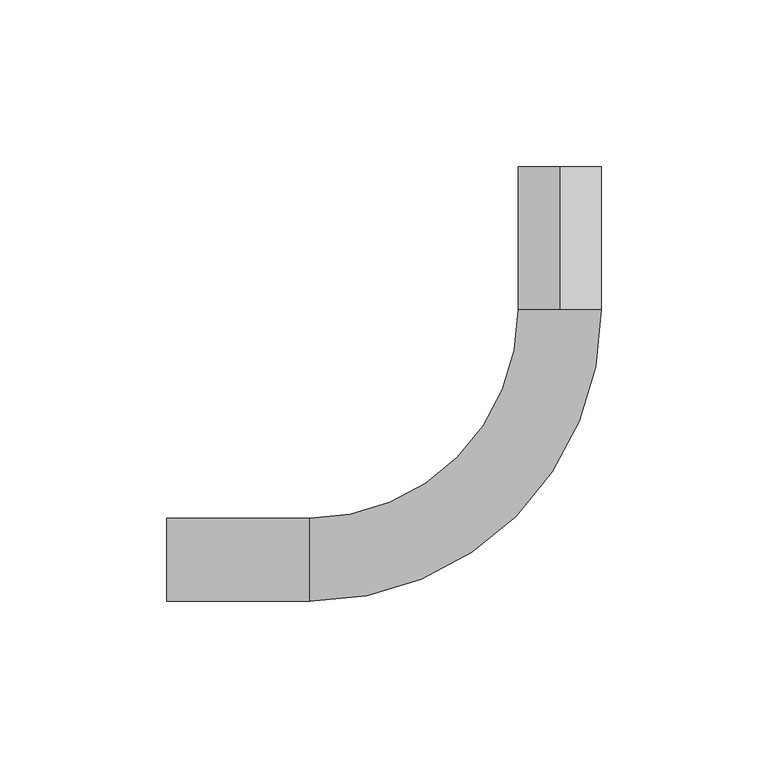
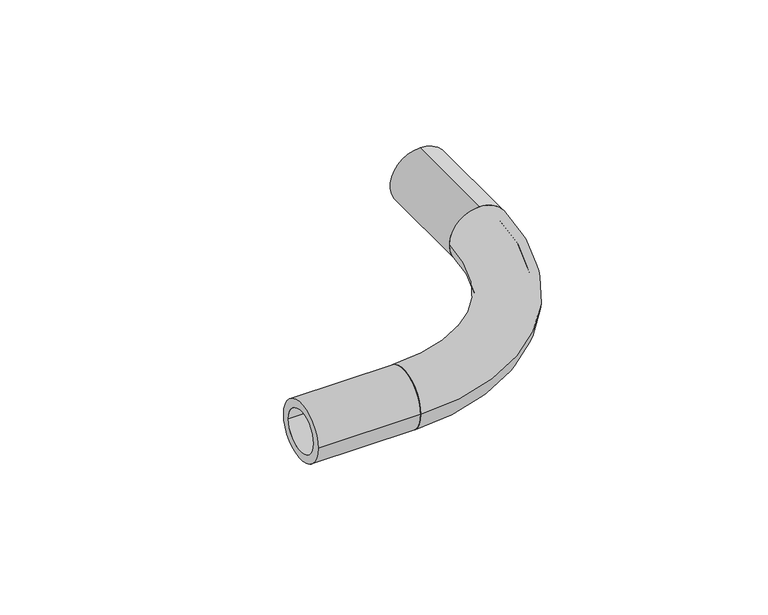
"""IFC4 building model written with IfcOpenShell, lengths in millimetres: pipe fitting geometry, REHAU_RAUTITAN_Pipe bend with former : REHAU_RAUTITAN_Pipe bend with former."""

import ifcopenshell
import ifcopenshell.guid

model = None  # the IFC model being written
_history = None  # IfcOwnerHistory: only IFC2X3 demands one
_inside = {}  # id of a spatial element -> (the spatial element, [elements in it])
_under = {}  # id of a project, library or spatial element -> (it, [spatial elements below it])
_declared = {}  # id of a project -> (the project, [libraries it declares])
_typed = {}  # id of a type object -> (the type object, [elements of that type])
_made_of = {}  # id of a material, layer set ... -> (it, [elements and type objects made of it])


def new_model(schema):
    """Start an empty IFC model of exactly this schema.

    Asked for "IFC4X3", IfcOpenShell would pick the latest addendum, in which some entities
    have other attributes; the version numbers below select the first issue.
    IFC2X3 requires an IfcOwnerHistory on every rooted entity: one is made here for all.
    """
    global model, _history
    if schema == "IFC4X3":
        model = ifcopenshell.file(schema_version=(4, 3, 0, 0))
    else:
        model = ifcopenshell.file(schema=schema)
    _inside.clear()
    _under.clear()
    _declared.clear()
    _typed.clear()
    _made_of.clear()
    _history = None
    if model.schema == "IFC2X3":
        org = make("IfcOrganization", Name="unknown")
        user = make(
            "IfcPersonAndOrganization",
            ThePerson=make("IfcPerson", FamilyName="unknown"),
            TheOrganization=org,
        )
        app = make(
            "IfcApplication",
            ApplicationDeveloper=org,
            Version="unknown",
            ApplicationFullName="unknown",
            ApplicationIdentifier="unknown",
        )
        _history = make(
            "IfcOwnerHistory",
            OwningUser=user,
            OwningApplication=app,
            ChangeAction="ADDED",
            CreationDate=0,
        )
    return model


def make(cls, **values):
    """One entity of the class cls with the attributes given. An attribute that is None is left unset."""
    return model.create_entity(
        cls, **{name: value for name, value in values.items() if value is not None}
    )


def rooted(cls, **values):
    """An entity with a GlobalId (a new one), such as an element, a storey or a relation."""
    return make(cls, GlobalId=ifcopenshell.guid.new(), OwnerHistory=_history, **values)


def si_unit(unit_type, name, prefix=None):
    """IfcSIUnit, for example si_unit("LENGTHUNIT", "METRE", prefix="MILLI")."""
    return make("IfcSIUnit", UnitType=unit_type, Prefix=prefix, Name=name)


def assignment(units):
    """IfcUnitAssignment: the units of a project."""
    return None if units is None else make("IfcUnitAssignment", Units=units)


def point(xyz):
    """IfcCartesianPoint."""
    return None if xyz is None else make("IfcCartesianPoint", Coordinates=xyz)


def direction(xyz):
    """IfcDirection."""
    return None if xyz is None else make("IfcDirection", DirectionRatios=xyz)


def frame(location, z_axis=None, x_axis=None):
    """IfcAxis2Placement3D, a coordinate frame: its origin and axes. An axis left out is left unset."""
    return make(
        "IfcAxis2Placement3D",
        Location=point(location),
        Axis=direction(z_axis),
        RefDirection=direction(x_axis),
    )


def frame_2d(location, x_axis=None):
    """IfcAxis2Placement2D, a coordinate frame in the plane: its origin and x axis."""
    return make(
        "IfcAxis2Placement2D", Location=point(location), RefDirection=direction(x_axis)
    )


def origin():
    """The frame at (0, 0, 0) with its axes left unset."""
    return frame((0.0, 0.0, 0.0))


def origin_2d():
    """The frame at (0, 0) in the plane with its x axis left unset."""
    return frame_2d((0.0, 0.0))


def place(relative_to, where):
    """IfcLocalPlacement: puts the frame where relative to a parent placement (None: the world)."""
    return make(
        "IfcLocalPlacement", PlacementRelTo=relative_to, RelativePlacement=where
    )


def context(
    kind, dimensions, precision=None, world=None, true_north=None, identifier=None
):
    """IfcGeometricRepresentationContext, for example the 3D "Model" context."""
    return make(
        "IfcGeometricRepresentationContext",
        ContextIdentifier=identifier,
        ContextType=kind,
        CoordinateSpaceDimension=dimensions,
        Precision=precision,
        WorldCoordinateSystem=world,
        TrueNorth=true_north,
    )


def project(units=None, contexts=None):
    """IfcProject with its units and contexts."""
    return rooted(
        "IfcProject",
        Name="project",
        RepresentationContexts=contexts,
        UnitsInContext=assignment(units),
    )


def spatial(cls, under=None, at=None, **own):
    """A site, building, storey or space (cls), placed at a placement, below another one or the project."""
    s = rooted(cls, ObjectPlacement=at, **own)
    if under is not None:
        _under.setdefault(under.id(), (under, []))[1].append(s)
    return s


def circle_curve(where, radius):
    """IfcCircle in the frame where."""
    return make("IfcCircle", Position=where, Radius=radius)


def ellipse_curve(where, semi_axis1, semi_axis2):
    """IfcEllipse in the frame where."""
    return make(
        "IfcEllipse", Position=where, SemiAxis1=semi_axis1, SemiAxis2=semi_axis2
    )


def trimmed(basis, trim1, trim2, sense, master):
    """IfcTrimmedCurve: the piece of a basis curve between two trims."""
    return make(
        "IfcTrimmedCurve",
        BasisCurve=basis,
        Trim1=trim1,
        Trim2=trim2,
        SenseAgreement=sense,
        MasterRepresentation=master,
    )


def segment(curve, same_sense, transition):
    """IfcCompositeCurveSegment."""
    return make(
        "IfcCompositeCurveSegment",
        Transition=transition,
        SameSense=same_sense,
        ParentCurve=curve,
    )


def composite_curve(segments, self_intersect=None):
    """IfcCompositeCurve: segments joined end to end."""
    return make("IfcCompositeCurve", Segments=segments, SelfIntersect=self_intersect)


def outline(outer, holes=None, kind="AREA"):
    """IfcArbitraryClosedProfileDef: a profile drawn as a closed curve; with holes, ...WithVoids."""
    if holes is None:
        return make("IfcArbitraryClosedProfileDef", ProfileType=kind, OuterCurve=outer)
    return make(
        "IfcArbitraryProfileDefWithVoids",
        ProfileType=kind,
        OuterCurve=outer,
        InnerCurves=holes,
    )


def extrude(swept, where, along, depth):
    """IfcExtrudedAreaSolid: the profile swept, set in the frame where, extruded along a direction by depth."""
    return make(
        "IfcExtrudedAreaSolid",
        SweptArea=swept,
        Position=where,
        ExtrudedDirection=direction(along),
        Depth=depth,
    )


def shape(context_of_items, identifier, shape_type, items):
    """IfcShapeRepresentation: the items that make up one representation, for example the "Body"."""
    return make(
        "IfcShapeRepresentation",
        ContextOfItems=context_of_items,
        RepresentationIdentifier=identifier,
        RepresentationType=shape_type,
        Items=items,
    )


def source(mapping_origin, context_of_items, identifier, shape_type, items):
    """IfcRepresentationMap: a shape defined once, which mapped items show again and again."""
    return make(
        "IfcRepresentationMap",
        MappingOrigin=mapping_origin,
        MappedRepresentation=shape(context_of_items, identifier, shape_type, items),
    )


def transform(
    local_origin,
    x_axis=None,
    y_axis=None,
    z_axis=None,
    scale=None,
    scale2=None,
    scale3=None,
    uniform=True,
):
    """IfcCartesianTransformationOperator3D, or its non-uniform kind. x_axis, y_axis, z_axis: its Axis1, 2, 3."""
    if uniform:
        return make(
            "IfcCartesianTransformationOperator3D",
            Axis1=direction(x_axis),
            Axis2=direction(y_axis),
            LocalOrigin=point(local_origin),
            Scale=scale,
            Axis3=direction(z_axis),
        )
    return make(
        "IfcCartesianTransformationOperator3DnonUniform",
        Axis1=direction(x_axis),
        Axis2=direction(y_axis),
        LocalOrigin=point(local_origin),
        Scale=scale,
        Axis3=direction(z_axis),
        Scale2=scale2,
        Scale3=scale3,
    )


def mapped(mapping_source, mapping_target):
    """IfcMappedItem: shows the shape of a source again, moved by a transform."""
    return make(
        "IfcMappedItem", MappingSource=mapping_source, MappingTarget=mapping_target
    )


def made_of(thing, what):
    """Note that an element or type object is made of a material, layer set ...; save() writes the relation."""
    if what is not None:
        _made_of.setdefault(what.id(), (what, []))[1].append(thing)
    return thing


def element(
    cls,
    number,
    at=None,
    inside=None,
    cuts=None,
    type_object=None,
    material=None,
    context=None,
    identifier="Body",
    shape_type=None,
    held_by="IfcProductDefinitionShape",
    body=None,
    shapes=None,
    **own,
):
    """One element of the class cls, such as IfcWall. Its Tag is "e" and its number.

    at: its placement. inside: the storey or other place that contains it. cuts: it is an
    opening in that element (IfcRelVoidsElement). A single representation is given by context,
    identifier, shape_type and body (its items); several are given by shapes. held_by: the class
    of the entity that holds the representations. save() writes the other relations.
    """
    e = rooted(cls, Tag="e%d" % number, ObjectPlacement=at, **own)
    if body is not None:
        shapes = [shape(context, identifier, shape_type, body)]
    if shapes is not None:
        e.Representation = make(held_by, Representations=shapes)
    if inside is not None:
        _inside.setdefault(inside.id(), (inside, []))[1].append(e)
    if cuts is not None:
        rooted(
            "IfcRelVoidsElement", RelatingBuildingElement=cuts, RelatedOpeningElement=e
        )
    if type_object is not None:
        _typed.setdefault(type_object.id(), (type_object, []))[1].append(e)
    return made_of(e, material)


def aggregate(whole, parts):
    """IfcRelAggregates: a whole, such as a stair, and the parts it consists of."""
    return rooted("IfcRelAggregates", RelatingObject=whole, RelatedObjects=parts)


def save(model, path):
    """Write the relations noted so far, then the file.

    IfcRelAggregates (storeys below a building ...), IfcRelContainedInSpatialStructure (elements
    in a storey), IfcRelDefinesByType, IfcRelAssociatesMaterial and IfcRelDeclares: one each for
    every whole, place, type object, material and project.
    """
    for whole, parts in _under.values():
        aggregate(whole, parts)
    for where, things in _inside.values():
        rooted(
            "IfcRelContainedInSpatialStructure",
            RelatedElements=things,
            RelatingStructure=where,
        )
    for kind, things in _typed.values():
        rooted("IfcRelDefinesByType", RelatedObjects=things, RelatingType=kind)
    for what, things in _made_of.values():
        rooted("IfcRelAssociatesMaterial", RelatedObjects=things, RelatingMaterial=what)
    for by, libraries in _declared.values():
        rooted("IfcRelDeclares", RelatingContext=by, RelatedDefinitions=libraries)
    model.write(path)


def plane_surface(at):
    """IfcPlane: the flat surface through the origin of the frame at, square to its z axis."""
    return make("IfcPlane", Position=at)


def revolved_surface(curve, axis_point, axis_direction):
    """IfcSurfaceOfRevolution: the curve turned about the line through axis_point along axis_direction."""
    return make(
        "IfcSurfaceOfRevolution",
        SweptCurve=make("IfcArbitraryOpenProfileDef", ProfileType="CURVE", Curve=curve),
        AxisPosition=make("IfcAxis1Placement", Location=point(axis_point), Axis=direction(axis_direction)),
    )


def advanced_brep(points, edges, surfaces, faces):
    """IfcAdvancedBrep: a solid bounded by faces that lie on surfaces and meet in shared edges.

    An edge is (start, end): straight between two places in points (the first is 0);
    or (start, end, curve); or (start, end, curve, False) where it runs against its curve.
    A face is (place in surfaces, loops), or (place, loops, False) where it looks against
    its surface's normal. A loop lists edges by number (the first is 1), with a minus sign
    where the edge is run from its end to its start. The first loop is the outer one.
    """
    corners = [point(p) for p in points]
    vertices = [make("IfcVertexPoint", VertexGeometry=c) for c in corners]
    made = []
    for start, end, *more in edges:
        made.append(
            make(
                "IfcEdgeCurve",
                EdgeStart=vertices[start],
                EdgeEnd=vertices[end],
                EdgeGeometry=more[0] if more else make("IfcPolyline", Points=[corners[start], corners[end]]),
                SameSense=more[1] if len(more) > 1 else True,
            )
        )
    hull = []
    for where, loops, *sense in faces:
        bounds = []
        for j, loop in enumerate(loops):
            ring = [make("IfcOrientedEdge", EdgeElement=made[abs(k) - 1], Orientation=k > 0) for k in loop]
            bounds.append(
                make(
                    "IfcFaceOuterBound" if j == 0 else "IfcFaceBound",
                    Bound=make("IfcEdgeLoop", EdgeList=ring),
                    Orientation=True,
                )
            )
        hull.append(make("IfcAdvancedFace", Bounds=bounds, FaceSurface=surfaces[where], SameSense=sense[0] if sense else True))
    return make("IfcAdvancedBrep", Outer=make("IfcClosedShell", CfsFaces=hull))


def pipe_fitting_1db8701a(model_context):
    return source(origin(), model_context, "Body", "SolidModel", [
        advanced_brep(
        [(-75.0, -12.5, 0.0), (-75.0, 12.5, 0.0), (-75.0, -9.0, 0.0), (-75.0, 9.0, 0.0), (12.5, 75.0, 0.0), (-12.5, 75.0, 0.0), (9.0, 75.0, 0.0), (-9.0, 75.0, 0.0)],
        [
            (0, 1, circle_curve(frame((-75.0, 0.0, 0.0), z_axis=(-1.0, 0.0, 0.0), x_axis=(0.0, 1.0, 0.0)), 12.5)),
            (1, 0, circle_curve(frame((-75.0, 0.0, 0.0), z_axis=(-1.0, 0.0, 0.0), x_axis=(0.0, 1.0, 0.0)), 12.5)),
            (2, 3, circle_curve(frame((-75.0, 0.0, 0.0), z_axis=(1.0, 0.0, 0.0), x_axis=(0.0, 1.0, 0.0)), 9.0)),
            (3, 2, circle_curve(frame((-75.0, 0.0, 0.0), z_axis=(1.0, 0.0, 0.0), x_axis=(0.0, 1.0, 0.0)), 9.0)),
            (4, 5, circle_curve(frame((0.0, 75.0, 0.0), z_axis=(0.0, 1.0, 0.0), x_axis=(-1.0, 0.0, 0.0)), 12.5)),
            (5, 4, circle_curve(frame((0.0, 75.0, 0.0), z_axis=(0.0, 1.0, 0.0), x_axis=(-1.0, 0.0, 0.0)), 12.5)),
            (6, 7, circle_curve(frame((0.0, 75.0, 0.0), z_axis=(0.0, -1.0, 0.0), x_axis=(-1.0, 0.0, 0.0)), 9.0)),
            (7, 6, circle_curve(frame((0.0, 75.0, 0.0), z_axis=(0.0, -1.0, 0.0), x_axis=(-1.0, 0.0, 0.0)), 9.0)),
            (5, 1, circle_curve(frame((-75.0, 75.0, 0.0), z_axis=(0.0, 0.0, -1.0), x_axis=(0.0, -1.0, 0.0)), 62.5)),
            (0, 4, circle_curve(frame((-75.0, 75.0, 0.0), z_axis=(0.0, 0.0, 1.0), x_axis=(0.0, -1.0, 0.0)), 87.5)),
            (7, 3, circle_curve(frame((-75.0, 75.0, 0.0), z_axis=(0.0, 0.0, -1.0), x_axis=(0.0, -1.0, 0.0)), 66.0)),
            (2, 6, circle_curve(frame((-75.0, 75.0, 0.0), z_axis=(0.0, 0.0, 1.0), x_axis=(0.0, -1.0, 0.0)), 84.0)),
        ],
        [
            plane_surface(frame((-75.0, 0.0, 0.0), z_axis=(-1.0, 0.0, 0.0), x_axis=(0.0, 0.0, 1.0))),
            plane_surface(frame((0.0, 75.0, 0.0), z_axis=(0.0, 1.0, 0.0), x_axis=(0.0, 0.0, 1.0))),
            revolved_surface(trimmed(ellipse_curve(frame((-75.0, 0.0, 0.0), z_axis=(-1.0, 0.0, 0.0), x_axis=(0.0, 1.0, 0.0)), 12.5, 12.5), [point((-75.0, -12.5, 0.0))], [point((-75.0, 12.5, 0.0))], True, "CARTESIAN"), (-75.0, 75.0, 0.0), (0.0, 0.0, 1.0)),
            revolved_surface(trimmed(ellipse_curve(frame((-75.0, 0.0, 0.0), z_axis=(-1.0, 0.0, 0.0), x_axis=(0.0, 1.0, 0.0)), 12.5, 12.5), [point((-75.0, 12.5, 0.0))], [point((-75.0, -12.5, 0.0))], True, "CARTESIAN"), (-75.0, 75.0, 0.0), (0.0, 0.0, 1.0)),
            revolved_surface(trimmed(ellipse_curve(frame((-75.0, 0.0, 0.0), z_axis=(1.0, 0.0, 0.0), x_axis=(0.0, 1.0, 0.0)), 9.0, 9.0), [point((-75.0, -9.0, 0.0))], [point((-75.0, 9.0, 0.0))], True, "CARTESIAN"), (-75.0, 75.0, 0.0), (0.0, 0.0, 1.0)),
            revolved_surface(trimmed(ellipse_curve(frame((-75.0, 0.0, 0.0), z_axis=(1.0, 0.0, 0.0), x_axis=(0.0, 1.0, 0.0)), 9.0, 9.0), [point((-75.0, 9.0, 0.0))], [point((-75.0, -9.0, 0.0))], True, "CARTESIAN"), (-75.0, 75.0, 0.0), (0.0, 0.0, 1.0)),
        ],
        [
            (0, [[1, 2], [3, 4]]),
            (1, [[5, 6], [7, 8]]),
            (2, [[9, -1, 10, -6]]),
            (3, [[-10, -2, -9, -5]]),
            (4, [[11, -3, 12, -8]]),
            (5, [[-12, -4, -11, -7]]),
        ],
    ),
        extrude(outline(composite_curve([segment(trimmed(circle_curve(origin_2d(), 12.5), [point((12.5, 0.0))], [point((-12.5, 0.0))], False, "CARTESIAN"), True, "CONTINUOUS"), segment(trimmed(circle_curve(origin_2d(), 12.5), [point((-12.5, 0.0))], [point((12.5, 0.0))], False, "CARTESIAN"), True, "CONTINUOUS")], self_intersect=False), holes=[composite_curve([segment(trimmed(circle_curve(origin_2d(), 9.0), [point((9.0, 0.0))], [point((-9.0, 0.0))], True, "CARTESIAN"), True, "CONTINUOUS"), segment(trimmed(circle_curve(origin_2d(), 9.0), [point((-9.0, 0.0))], [point((9.0, 0.0))], True, "CARTESIAN"), True, "CONTINUOUS")], self_intersect=False)]), frame((-118.0, 0.0, 0.0), z_axis=(1.0, 0.0, 0.0), x_axis=(0.0, 1.0, 0.0)), (0.0, 0.0, 1.0), 43.0),
        extrude(outline(composite_curve([segment(trimmed(circle_curve(origin_2d(), 12.5), [point((-12.5, 0.0))], [point((12.5, 0.0))], False, "CARTESIAN"), True, "CONTINUOUS"), segment(trimmed(circle_curve(origin_2d(), 12.5), [point((12.5, 0.0))], [point((-12.5, 0.0))], False, "CARTESIAN"), True, "CONTINUOUS")], self_intersect=False), holes=[composite_curve([segment(trimmed(circle_curve(origin_2d(), 9.0), [point((-9.0, 0.0))], [point((9.0, 0.0))], True, "CARTESIAN"), True, "CONTINUOUS"), segment(trimmed(circle_curve(origin_2d(), 9.0), [point((9.0, 0.0))], [point((-9.0, 0.0))], True, "CARTESIAN"), True, "CONTINUOUS")], self_intersect=False)]), frame((0.0, 75.0, 0.0), z_axis=(0.0, 1.0, 0.0), x_axis=(0.0, 0.0, 1.0)), (0.0, 0.0, 1.0), 43.0),
    ])


if __name__ == "__main__":
    model = new_model("IFC4")
    model_context = context("Model", 3, world=origin())
    ifc_project = project(units=[si_unit("LENGTHUNIT", "METRE", prefix="MILLI")], contexts=[model_context])
    site = spatial("IfcSite", under=ifc_project)
    building = spatial("IfcBuilding", under=site)
    placement = place(None, origin())
    pipe_fitting_shape = pipe_fitting_1db8701a(model_context)
    element("IfcPipeFitting", 1, ObjectType="REHAU_RAUTITAN_Pipe bend with former : REHAU_RAUTITAN_Pipe bend with former", at=placement, inside=building, context=model_context, shape_type="MappedRepresentation", body=[
        mapped(pipe_fitting_shape, transform((0.0, 0.0, 0.0), x_axis=(1.0, 0.0, 0.0), y_axis=(0.0, 1.0, 0.0), z_axis=(0.0, 0.0, 1.0))),
    ])
    save(model, "model.ifc")
